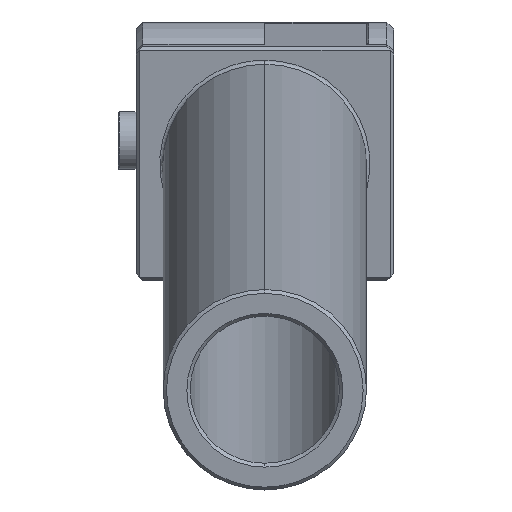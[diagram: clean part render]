
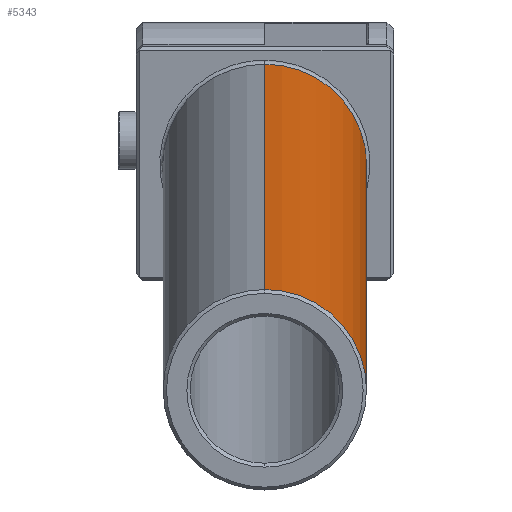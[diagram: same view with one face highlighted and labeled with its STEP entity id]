
A CAD part, left-side view. The second image highlights one B-rep face of the part: STEP entity #5343.
In plain terms, the highlighted cylindrical face has radius 15 mm (diameter 30 mm), a partial arc.
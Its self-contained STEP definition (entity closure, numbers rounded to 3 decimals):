
#1402 = ORIENTED_EDGE ( 'NONE', *, *, #31126, .T. ) ;
#5076 = ORIENTED_EDGE ( 'NONE', *, *, #17096, .F. ) ;
#5343 = ADVANCED_FACE ( 'NONE', ( #36797 ), #26338, .T. ) ;
#5498 = CARTESIAN_POINT ( 'NONE',  ( -210.487, 26.764, -83.005 ) ) ;
#6618 = VERTEX_POINT ( 'NONE', #9136 ) ;
#9136 = CARTESIAN_POINT ( 'NONE',  ( -210.487, 26.764, -83.005 ) ) ;
#9951 = EDGE_CURVE ( 'NONE', #26883, #35408, #30817, .T. ) ;
#14510 = EDGE_LOOP ( 'NONE', ( #31497, #5076, #1402, #33483 ) ) ;
#14623 = CARTESIAN_POINT ( 'NONE',  ( -212.992, 26.764, -68.216 ) ) ;
#14803 = DIRECTION ( 'NONE',  ( -0.986, 0., -0.167 ) ) ;
#15889 = VERTEX_POINT ( 'NONE', #16570 ) ;
#16248 = LINE ( 'NONE', #5498, #24039 ) ;
#16570 = CARTESIAN_POINT ( 'NONE',  ( -215.497, 26.764, -53.426 ) ) ;
#17096 = EDGE_CURVE ( 'NONE', #6618, #15889, #33370, .T. ) ;
#17508 = VECTOR ( 'NONE', #27415, 1000. ) ;
#17611 = DIRECTION ( 'NONE',  ( 0.167, 0., -0.986 ) ) ;
#18219 = DIRECTION ( 'NONE',  ( 0.167, 0., -0.986 ) ) ;
#18589 = CARTESIAN_POINT ( 'NONE',  ( -212.992, 26.764, -68.216 ) ) ;
#19600 = DIRECTION ( 'NONE',  ( 0.986, 0., 0.167 ) ) ;
#23035 = DIRECTION ( 'NONE',  ( 0.986, 0., 0.167 ) ) ;
#23333 = AXIS2_PLACEMENT_3D ( 'NONE', #14623, #35080, #17611 ) ;
#24039 = VECTOR ( 'NONE', #23035, 1000. ) ;
#24412 = CARTESIAN_POINT ( 'NONE',  ( -14.282, 26.764, -49.767 ) ) ;
#25275 = LINE ( 'NONE', #33108, #17508 ) ;
#25945 = AXIS2_PLACEMENT_3D ( 'NONE', #18589, #19600, #18219 ) ;
#26338 = CYLINDRICAL_SURFACE ( 'NONE', #25945, 15. ) ;
#26883 = VERTEX_POINT ( 'NONE', #24412 ) ;
#27415 = DIRECTION ( 'NONE',  ( 0.986, 0., 0.167 ) ) ;
#27442 = EDGE_CURVE ( 'NONE', #15889, #35408, #25275, .T. ) ;
#30817 = CIRCLE ( 'NONE', #31527, 15. ) ;
#31126 = EDGE_CURVE ( 'NONE', #6618, #26883, #16248, .T. ) ;
#31497 = ORIENTED_EDGE ( 'NONE', *, *, #27442, .F. ) ;
#31527 = AXIS2_PLACEMENT_3D ( 'NONE', #32300, #14803, #35241 ) ;
#32300 = CARTESIAN_POINT ( 'NONE',  ( -16.787, 26.764, -34.978 ) ) ;
#33108 = CARTESIAN_POINT ( 'NONE',  ( -215.497, 26.764, -53.426 ) ) ;
#33370 = CIRCLE ( 'NONE', #23333, 15. ) ;
#33483 = ORIENTED_EDGE ( 'NONE', *, *, #9951, .T. ) ;
#35080 = DIRECTION ( 'NONE',  ( -0.986, 0., -0.167 ) ) ;
#35241 = DIRECTION ( 'NONE',  ( 0., -1., 0. ) ) ;
#35408 = VERTEX_POINT ( 'NONE', #36635 ) ;
#36635 = CARTESIAN_POINT ( 'NONE',  ( -19.293, 26.764, -20.189 ) ) ;
#36797 = FACE_OUTER_BOUND ( 'NONE', #14510, .T. ) ;
